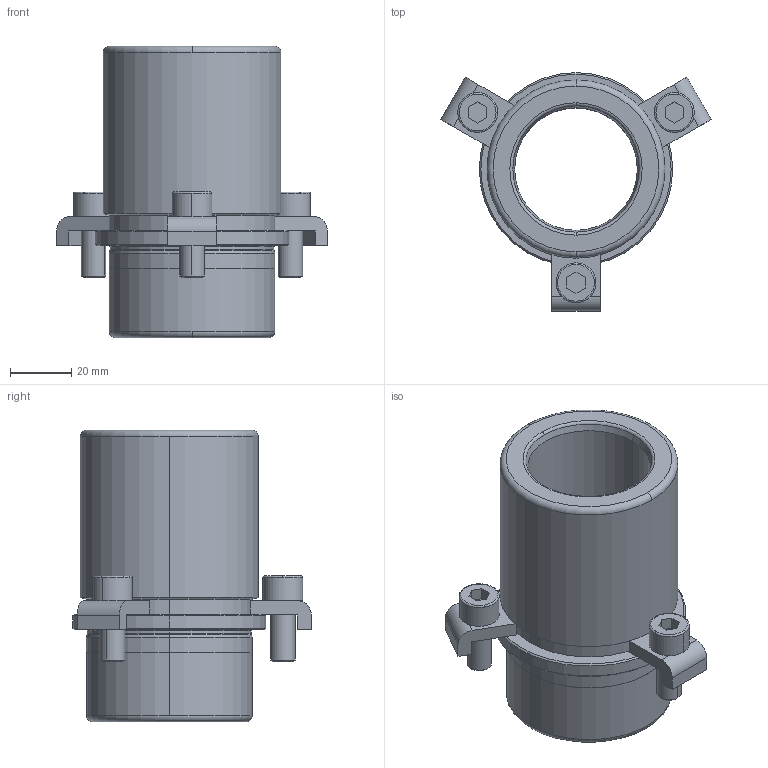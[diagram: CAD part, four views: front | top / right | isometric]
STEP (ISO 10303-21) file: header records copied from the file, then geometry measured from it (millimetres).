
FILE_DESCRIPTION((''),'2;1');
FILE_NAME('B40_032_065.stp','2009-01-05T16:29:19',(''),(''),'Mechanical Desktop 2009','Mechanical Desktop 2009',', , ');
FILE_SCHEMA(('CONFIG_CONTROL_DESIGN'));
Length unit declared in the file: millimetre
Products named in the file (2): Product; blmdl1
Assembly tree (1 placements, depth 2):
  Product
    blmdl1
Bounding box: 88.14 x 77.8 x 95 mm (x, y, z)
Volume: 130807.2 mm3; surface area: 39342.2 mm2
Topology: 7 solids, 7 shells, 147 faces, 362 edges, 238 vertices
Faces by surface type: plane 62, cylinder 41, cone 20, torus 14, bspline 10
Entity records: 4933 total; most frequent: CARTESIAN_POINT 1189, DIRECTION 824, ORIENTED_EDGE 724, EDGE_CURVE 362, AXIS2_PLACEMENT_3D 323, VERTEX_POINT 238, CIRCLE 184, VECTOR 178
